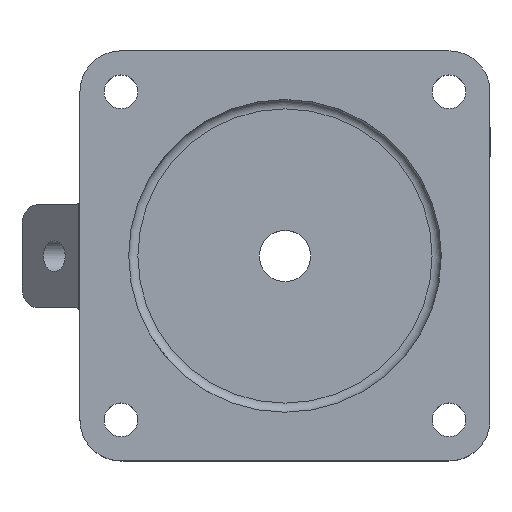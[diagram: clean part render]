
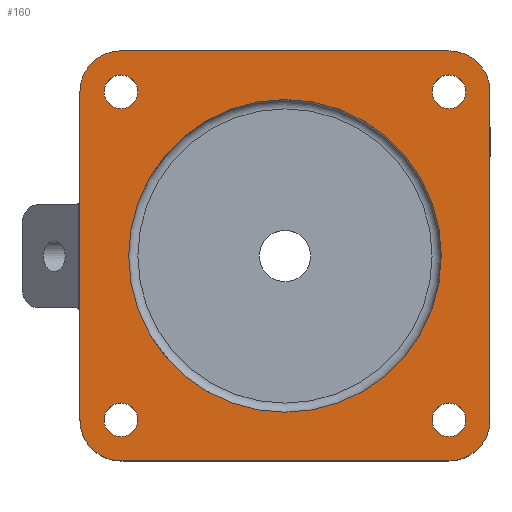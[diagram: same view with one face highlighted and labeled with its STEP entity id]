
A CAD part, top view. The second image highlights one B-rep face of the part: STEP entity #160.
In plain terms, the highlighted planar face has unit normal (0, 0, 1).
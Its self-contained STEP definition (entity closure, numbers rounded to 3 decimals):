
#30=CARTESIAN_POINT('',(0.,0.,0.));
#31=DIRECTION('',(1.,0.,0.));
#32=DIRECTION('',(0.,0.,1.));
#33=AXIS2_PLACEMENT_3D('',#30,#32,#31);
#34=PLANE('',#33);
#35=CARTESIAN_POINT('',(-16.,20.,0.));
#36=VERTEX_POINT('',#35);
#37=CARTESIAN_POINT('',(-20.,16.,0.));
#38=VERTEX_POINT('',#37);
#39=CARTESIAN_POINT('',(-16.,16.,0.));
#40=DIRECTION('',(0.,1.,0.));
#41=DIRECTION('',(0.,0.,1.));
#42=AXIS2_PLACEMENT_3D('',#39,#41,#40);
#43=CIRCLE('',#42,4.);
#44=EDGE_CURVE('',#36,#38,#43,.T.);
#45=ORIENTED_EDGE('E1',*,*,#44,.T.);
#46=CARTESIAN_POINT('',(-20.,-16.,0.));
#47=VERTEX_POINT('',#46);
#48=CARTESIAN_POINT('',(-20.,16.,0.));
#49=DIRECTION('',(0.,-1.,0.));
#50=VECTOR('',#49,32.);
#51=LINE('',#48,#50);
#52=EDGE_CURVE('',#38,#47,#51,.T.);
#53=ORIENTED_EDGE('E2',*,*,#52,.T.);
#54=CARTESIAN_POINT('',(-16.,-20.,0.));
#55=VERTEX_POINT('',#54);
#56=CARTESIAN_POINT('',(-16.,-16.,0.));
#57=DIRECTION('',(-1.,0.,0.));
#58=DIRECTION('',(-0.,0.,1.));
#59=AXIS2_PLACEMENT_3D('',#56,#58,#57);
#60=CIRCLE('',#59,4.);
#61=EDGE_CURVE('',#47,#55,#60,.T.);
#62=ORIENTED_EDGE('E3',*,*,#61,.T.);
#63=CARTESIAN_POINT('',(16.,-20.,0.));
#64=VERTEX_POINT('',#63);
#65=CARTESIAN_POINT('',(-16.,-20.,0.));
#66=DIRECTION('',(1.,0.,0.));
#67=VECTOR('',#66,32.);
#68=LINE('',#65,#67);
#69=EDGE_CURVE('',#55,#64,#68,.T.);
#70=ORIENTED_EDGE('E4',*,*,#69,.T.);
#71=CARTESIAN_POINT('',(20.,-16.,0.));
#72=VERTEX_POINT('',#71);
#73=CARTESIAN_POINT('',(16.,-16.,0.));
#74=DIRECTION('',(0.,-1.,0.));
#75=DIRECTION('',(0.,-0.,1.));
#76=AXIS2_PLACEMENT_3D('',#73,#75,#74);
#77=CIRCLE('',#76,4.);
#78=EDGE_CURVE('',#64,#72,#77,.T.);
#79=ORIENTED_EDGE('E5',*,*,#78,.T.);
#80=CARTESIAN_POINT('',(20.,16.,0.));
#81=VERTEX_POINT('',#80);
#82=CARTESIAN_POINT('',(20.,-16.,0.));
#83=DIRECTION('',(0.,1.,0.));
#84=VECTOR('',#83,32.);
#85=LINE('',#82,#84);
#86=EDGE_CURVE('',#72,#81,#85,.T.);
#87=ORIENTED_EDGE('E6',*,*,#86,.T.);
#88=CARTESIAN_POINT('',(16.,20.,0.));
#89=VERTEX_POINT('',#88);
#90=CARTESIAN_POINT('',(16.,16.,0.));
#91=DIRECTION('',(1.,0.,0.));
#92=DIRECTION('',(0.,0.,1.));
#93=AXIS2_PLACEMENT_3D('',#90,#92,#91);
#94=CIRCLE('',#93,4.);
#95=EDGE_CURVE('',#81,#89,#94,.T.);
#96=ORIENTED_EDGE('E7',*,*,#95,.T.);
#97=CARTESIAN_POINT('',(16.,20.,0.));
#98=DIRECTION('',(-1.,0.,0.));
#99=VECTOR('',#98,32.);
#100=LINE('',#97,#99);
#101=EDGE_CURVE('',#89,#36,#100,.T.);
#102=ORIENTED_EDGE('E8',*,*,#101,.T.);
#103=EDGE_LOOP('',(#45,#53,#62,#70,#79,#87,#96,#102));
#104=FACE_OUTER_BOUND('',#103,.T.);
#105=CARTESIAN_POINT('',(15.25,0.,0.));
#106=VERTEX_POINT('',#105);
#107=CARTESIAN_POINT('',(0.,0.,0.));
#108=DIRECTION('',(1.,0.,-0.));
#109=DIRECTION('',(0.,0.,-1.));
#110=AXIS2_PLACEMENT_3D('',#107,#109,#108);
#111=CIRCLE('',#110,15.25);
#112=EDGE_CURVE('',#106,#106,#111,.T.);
#113=ORIENTED_EDGE('E25',*,*,#112,.T.);
#114=EDGE_LOOP('',(#113));
#115=FACE_BOUND('',#114,.T.);
#116=CARTESIAN_POINT('',(-14.35,-16.,0.));
#117=VERTEX_POINT('',#116);
#118=CARTESIAN_POINT('',(-16.,-16.,0.));
#119=DIRECTION('',(1.,0.,-0.));
#120=DIRECTION('',(0.,0.,-1.));
#121=AXIS2_PLACEMENT_3D('',#118,#120,#119);
#122=CIRCLE('',#121,1.65);
#123=EDGE_CURVE('',#117,#117,#122,.T.);
#124=ORIENTED_EDGE('E28',*,*,#123,.T.);
#125=EDGE_LOOP('',(#124));
#126=FACE_BOUND('',#125,.T.);
#127=CARTESIAN_POINT('',(17.65,16.,0.));
#128=VERTEX_POINT('',#127);
#129=CARTESIAN_POINT('',(16.,16.,0.));
#130=DIRECTION('',(1.,0.,-0.));
#131=DIRECTION('',(0.,-0.,-1.));
#132=AXIS2_PLACEMENT_3D('',#129,#131,#130);
#133=CIRCLE('',#132,1.65);
#134=EDGE_CURVE('',#128,#128,#133,.T.);
#135=ORIENTED_EDGE('E31',*,*,#134,.T.);
#136=EDGE_LOOP('',(#135));
#137=FACE_BOUND('',#136,.T.);
#138=CARTESIAN_POINT('',(-14.35,16.,0.));
#139=VERTEX_POINT('',#138);
#140=CARTESIAN_POINT('',(-16.,16.,0.));
#141=DIRECTION('',(1.,0.,-0.));
#142=DIRECTION('',(0.,0.,-1.));
#143=AXIS2_PLACEMENT_3D('',#140,#142,#141);
#144=CIRCLE('',#143,1.65);
#145=EDGE_CURVE('',#139,#139,#144,.T.);
#146=ORIENTED_EDGE('E34',*,*,#145,.T.);
#147=EDGE_LOOP('',(#146));
#148=FACE_BOUND('',#147,.T.);
#149=CARTESIAN_POINT('',(17.65,-16.,0.));
#150=VERTEX_POINT('',#149);
#151=CARTESIAN_POINT('',(16.,-16.,0.));
#152=DIRECTION('',(1.,0.,-0.));
#153=DIRECTION('',(0.,-0.,-1.));
#154=AXIS2_PLACEMENT_3D('',#151,#153,#152);
#155=CIRCLE('',#154,1.65);
#156=EDGE_CURVE('',#150,#150,#155,.T.);
#157=ORIENTED_EDGE('E37',*,*,#156,.T.);
#158=EDGE_LOOP('',(#157));
#159=FACE_BOUND('',#158,.T.);
#160=ADVANCED_FACE('F1',(#104,#115,#126,#137,#148,#159),#34,.T.);
